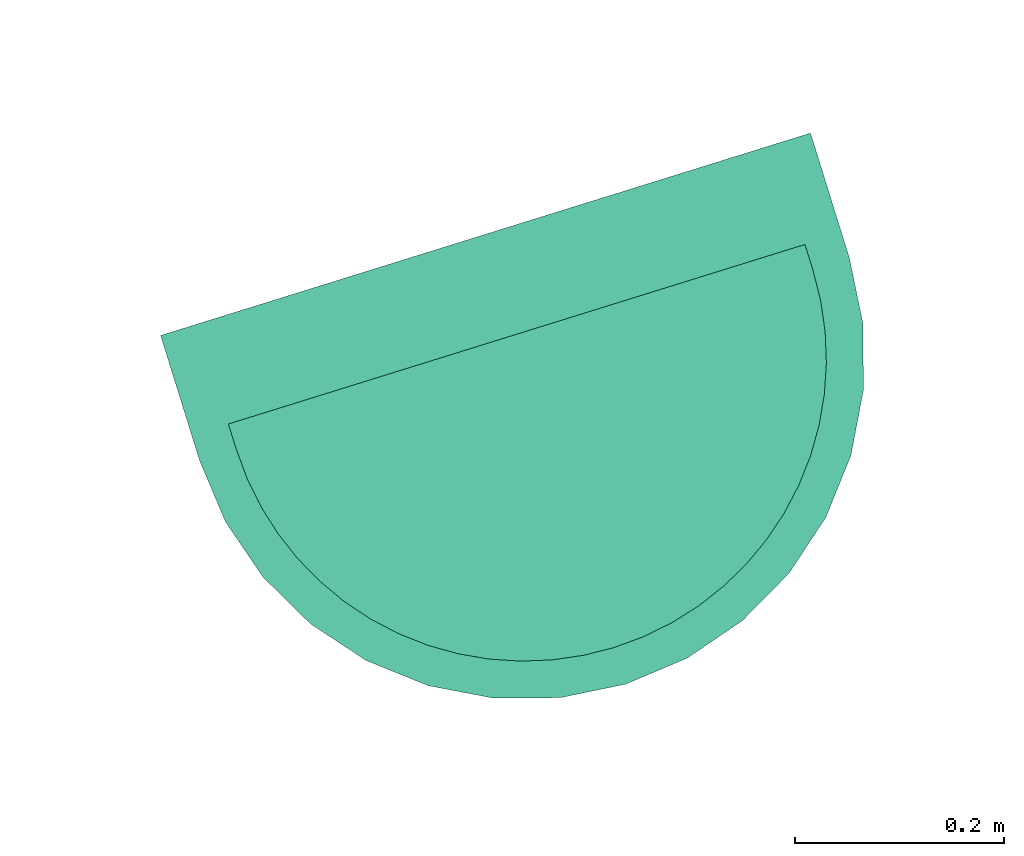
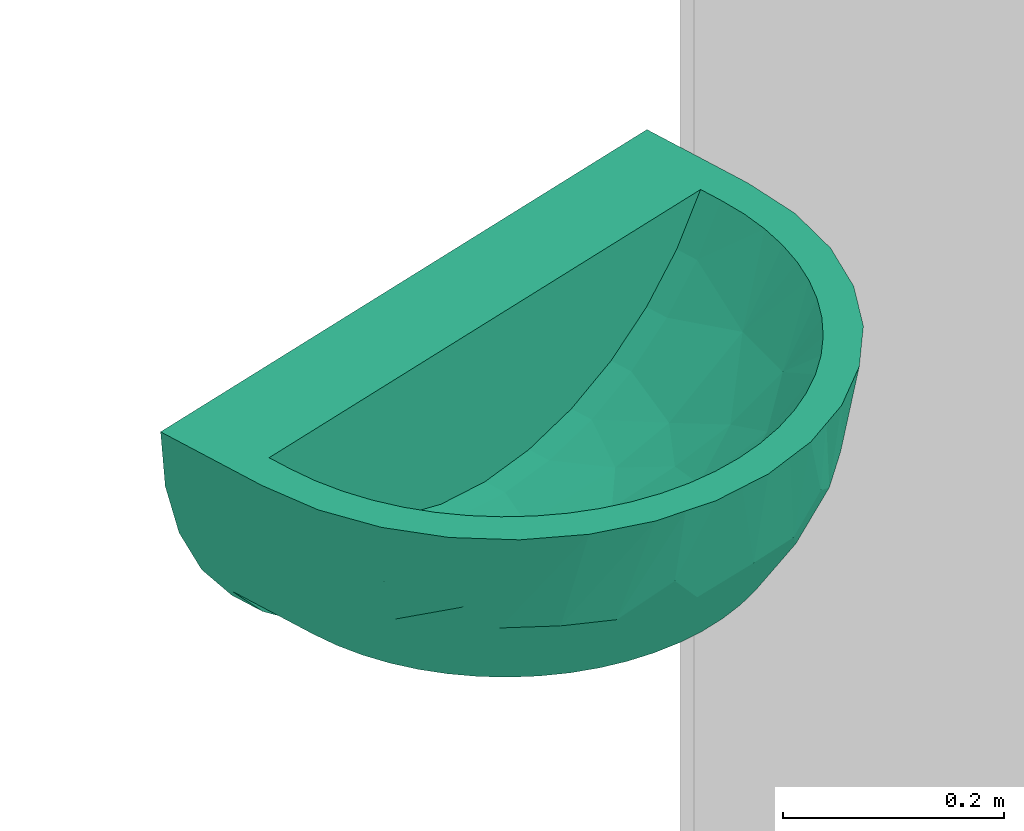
# Not in any storey, part 14 of 20: 1 sanitary terminal.
"""IFC4 model written with IfcOpenShell, lengths in metres."""

import ifcopenshell
import ifcopenshell.guid

model = None  # the IFC model being written
_history = None  # IfcOwnerHistory: only IFC2X3 demands one
_inside = {}  # id of a spatial element -> (the spatial element, [elements in it])
_under = {}  # id of a project, library or spatial element -> (it, [spatial elements below it])
_declared = {}  # id of a project -> (the project, [libraries it declares])
_typed = {}  # id of a type object -> (the type object, [elements of that type])
_made_of = {}  # id of a material, layer set ... -> (it, [elements and type objects made of it])


def new_model(schema):
    """Start an empty IFC model of exactly this schema.

    Asked for "IFC4X3", IfcOpenShell would pick the latest addendum, in which some entities
    have other attributes; the version numbers below select the first issue.
    IFC2X3 requires an IfcOwnerHistory on every rooted entity: one is made here for all.
    """
    global model, _history
    if schema == "IFC4X3":
        model = ifcopenshell.file(schema_version=(4, 3, 0, 0))
    else:
        model = ifcopenshell.file(schema=schema)
    _inside.clear()
    _under.clear()
    _declared.clear()
    _typed.clear()
    _made_of.clear()
    _history = None
    if model.schema == "IFC2X3":
        org = make("IfcOrganization", Name="unknown")
        user = make(
            "IfcPersonAndOrganization",
            ThePerson=make("IfcPerson", FamilyName="unknown"),
            TheOrganization=org,
        )
        app = make(
            "IfcApplication",
            ApplicationDeveloper=org,
            Version="unknown",
            ApplicationFullName="unknown",
            ApplicationIdentifier="unknown",
        )
        _history = make(
            "IfcOwnerHistory",
            OwningUser=user,
            OwningApplication=app,
            ChangeAction="ADDED",
            CreationDate=0,
        )
    return model


def make(cls, **values):
    """One entity of the class cls with the attributes given. An attribute that is None is left unset."""
    return model.create_entity(
        cls, **{name: value for name, value in values.items() if value is not None}
    )


def entity(cls, *values):
    """Any entity or typed value of the class cls, its attributes in the order of the schema. None: left unset."""
    e = model.create_entity(cls)
    for i, value in enumerate(values):
        if value is not None:
            e[i] = value
    return e


def rooted(cls, **values):
    """An entity with a GlobalId (a new one), such as an element, a storey or a relation."""
    return make(cls, GlobalId=ifcopenshell.guid.new(), OwnerHistory=_history, **values)


def si_unit(unit_type, name, prefix=None):
    """IfcSIUnit, for example si_unit("LENGTHUNIT", "METRE", prefix="MILLI")."""
    return make("IfcSIUnit", UnitType=unit_type, Prefix=prefix, Name=name)


def converted_unit(unit_type, name, factor, base, dimensions=None, offset=None):
    """IfcConversionBasedUnit, such as the inch: factor (a typed value) times the base unit."""
    return make(
        "IfcConversionBasedUnit"
        if offset is None
        else "IfcConversionBasedUnitWithOffset",
        ConversionOffset=offset,
        Dimensions=None
        if dimensions is None
        else entity("IfcDimensionalExponents", *dimensions),
        UnitType=unit_type,
        Name=name,
        ConversionFactor=make(
            "IfcMeasureWithUnit", ValueComponent=factor, UnitComponent=base
        ),
    )


def assignment(units):
    """IfcUnitAssignment: the units of a project."""
    return None if units is None else make("IfcUnitAssignment", Units=units)


def point(xyz):
    """IfcCartesianPoint."""
    return None if xyz is None else make("IfcCartesianPoint", Coordinates=xyz)


def direction(xyz):
    """IfcDirection."""
    return None if xyz is None else make("IfcDirection", DirectionRatios=xyz)


def frame(location, z_axis=None, x_axis=None):
    """IfcAxis2Placement3D, a coordinate frame: its origin and axes. An axis left out is left unset."""
    return make(
        "IfcAxis2Placement3D",
        Location=point(location),
        Axis=direction(z_axis),
        RefDirection=direction(x_axis),
    )


def origin():
    """The frame at (0, 0, 0) with its axes left unset."""
    return frame((0.0, 0.0, 0.0))


def place(relative_to, where):
    """IfcLocalPlacement: puts the frame where relative to a parent placement (None: the world)."""
    return make(
        "IfcLocalPlacement", PlacementRelTo=relative_to, RelativePlacement=where
    )


def context(
    kind, dimensions, precision=None, world=None, true_north=None, identifier=None
):
    """IfcGeometricRepresentationContext, for example the 3D "Model" context."""
    return make(
        "IfcGeometricRepresentationContext",
        ContextIdentifier=identifier,
        ContextType=kind,
        CoordinateSpaceDimension=dimensions,
        Precision=precision,
        WorldCoordinateSystem=world,
        TrueNorth=true_north,
    )


def subcontext(parent, identifier, kind, view, scale=None):
    """IfcGeometricRepresentationSubContext, for example "Body" below "Model"."""
    return make(
        "IfcGeometricRepresentationSubContext",
        ContextIdentifier=identifier,
        ContextType=kind,
        ParentContext=parent,
        TargetScale=scale,
        TargetView=view,
    )


def project(units=None, contexts=None):
    """IfcProject with its units and contexts."""
    return rooted(
        "IfcProject",
        Name="project",
        RepresentationContexts=contexts,
        UnitsInContext=assignment(units),
    )


def point_list(points):
    """IfcCartesianPointList2D or 3D."""
    cls = (
        "IfcCartesianPointList2D" if len(points[0]) == 2 else "IfcCartesianPointList3D"
    )
    return make(cls, CoordList=points)


def polygons(points, faces, closed=None, point_numbers=None):
    """IfcPolygonalFaceSet: a face is its outer loop, then its inner loops; points numbered from 1."""
    made = []
    for loops in faces:
        if len(loops) == 1:
            made.append(make("IfcIndexedPolygonalFace", CoordIndex=loops[0]))
        else:
            made.append(
                make(
                    "IfcIndexedPolygonalFaceWithVoids",
                    CoordIndex=loops[0],
                    InnerCoordIndices=loops[1:],
                )
            )
    return make(
        "IfcPolygonalFaceSet",
        Coordinates=point_list(points),
        Closed=closed,
        Faces=made,
        PnIndex=point_numbers,
    )


def shape(context_of_items, identifier, shape_type, items):
    """IfcShapeRepresentation: the items that make up one representation, for example the "Body"."""
    return make(
        "IfcShapeRepresentation",
        ContextOfItems=context_of_items,
        RepresentationIdentifier=identifier,
        RepresentationType=shape_type,
        Items=items,
    )


def source(mapping_origin, context_of_items, identifier, shape_type, items):
    """IfcRepresentationMap: a shape defined once, which mapped items show again and again."""
    return make(
        "IfcRepresentationMap",
        MappingOrigin=mapping_origin,
        MappedRepresentation=shape(context_of_items, identifier, shape_type, items),
    )


def transform(
    local_origin,
    x_axis=None,
    y_axis=None,
    z_axis=None,
    scale=None,
    scale2=None,
    scale3=None,
    uniform=True,
):
    """IfcCartesianTransformationOperator3D, or its non-uniform kind. x_axis, y_axis, z_axis: its Axis1, 2, 3."""
    if uniform:
        return make(
            "IfcCartesianTransformationOperator3D",
            Axis1=direction(x_axis),
            Axis2=direction(y_axis),
            LocalOrigin=point(local_origin),
            Scale=scale,
            Axis3=direction(z_axis),
        )
    return make(
        "IfcCartesianTransformationOperator3DnonUniform",
        Axis1=direction(x_axis),
        Axis2=direction(y_axis),
        LocalOrigin=point(local_origin),
        Scale=scale,
        Axis3=direction(z_axis),
        Scale2=scale2,
        Scale3=scale3,
    )


def mapped(mapping_source, mapping_target):
    """IfcMappedItem: shows the shape of a source again, moved by a transform."""
    return make(
        "IfcMappedItem", MappingSource=mapping_source, MappingTarget=mapping_target
    )


def material(Name=None, Category=None):
    """IfcMaterial."""
    return make("IfcMaterial", Name=Name, Category=Category)


def made_of(thing, what):
    """Note that an element or type object is made of a material, layer set ...; save() writes the relation."""
    if what is not None:
        _made_of.setdefault(what.id(), (what, []))[1].append(thing)
    return thing


def type_object(cls, material=None, **own):
    """A type object (cls), such as IfcWallType, which elements share."""
    return made_of(rooted(cls, **own), material)


def element(
    cls,
    number,
    at=None,
    inside=None,
    cuts=None,
    type_object=None,
    material=None,
    context=None,
    identifier="Body",
    shape_type=None,
    held_by="IfcProductDefinitionShape",
    body=None,
    shapes=None,
    **own,
):
    """One element of the class cls, such as IfcWall. Its Tag is "e" and its number.

    at: its placement. inside: the storey or other place that contains it. cuts: it is an
    opening in that element (IfcRelVoidsElement). A single representation is given by context,
    identifier, shape_type and body (its items); several are given by shapes. held_by: the class
    of the entity that holds the representations. save() writes the other relations.
    """
    e = rooted(cls, Tag="e%d" % number, ObjectPlacement=at, **own)
    if body is not None:
        shapes = [shape(context, identifier, shape_type, body)]
    if shapes is not None:
        e.Representation = make(held_by, Representations=shapes)
    if inside is not None:
        _inside.setdefault(inside.id(), (inside, []))[1].append(e)
    if cuts is not None:
        rooted(
            "IfcRelVoidsElement", RelatingBuildingElement=cuts, RelatedOpeningElement=e
        )
    if type_object is not None:
        _typed.setdefault(type_object.id(), (type_object, []))[1].append(e)
    return made_of(e, material)


def aggregate(whole, parts):
    """IfcRelAggregates: a whole, such as a stair, and the parts it consists of."""
    return rooted("IfcRelAggregates", RelatingObject=whole, RelatedObjects=parts)


def save(model, path):
    """Write the relations noted so far, then the file.

    IfcRelAggregates (storeys below a building ...), IfcRelContainedInSpatialStructure (elements
    in a storey), IfcRelDefinesByType, IfcRelAssociatesMaterial and IfcRelDeclares: one each for
    every whole, place, type object, material and project.
    """
    for whole, parts in _under.values():
        aggregate(whole, parts)
    for where, things in _inside.values():
        rooted(
            "IfcRelContainedInSpatialStructure",
            RelatedElements=things,
            RelatingStructure=where,
        )
    for kind, things in _typed.values():
        rooted("IfcRelDefinesByType", RelatedObjects=things, RelatingType=kind)
    for what, things in _made_of.values():
        rooted("IfcRelAssociatesMaterial", RelatedObjects=things, RelatingMaterial=what)
    for by, libraries in _declared.values():
        rooted("IfcRelDeclares", RelatingContext=by, RelatedDefinitions=libraries)
    model.write(path)


model = new_model("IFC4")

# Units and contexts
model_context = context("Model", 3, precision=1e-05, world=origin(), true_north=direction((6.12323399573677e-17, 1.0)))
body_context = subcontext(model_context, "Body", "Model", "MODEL_VIEW")
ifc_project = project(units=[si_unit("LENGTHUNIT", "METRE"), si_unit("AREAUNIT", "SQUARE_METRE"), si_unit("VOLUMEUNIT", "CUBIC_METRE"), converted_unit("PLANEANGLEUNIT", "DEGREE", entity("IfcPlaneAngleMeasure", 0.0174532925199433), si_unit("PLANEANGLEUNIT", "RADIAN"), dimensions=[0, 0, 0, 0, 0, 0, 0])], contexts=[model_context])

# Sanitary terminal
ifc_material = material(Name="<Unnamed>")
sanitary_terminal_type = type_object("IfcSanitaryTerminalType", Name="NLRS_74_PF_WB_wastafel_gen:wastafel", PredefinedType="SINK", material=ifc_material)
shared_shape = source(origin(), body_context, "Body", "Tessellation", [
    polygons([(-0.303081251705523, -0.175000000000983, -3.7), (-0.296836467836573, -0.238404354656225, -3.7), (-0.278342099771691, -0.299372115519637, -3.7), (-0.248308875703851, -0.355560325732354, -3.7), (-0.207890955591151, -0.404809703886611, -3.7), (-0.158641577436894, -0.44522762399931, -3.7), (-0.102453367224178, -0.475260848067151, -3.7), (-0.0414856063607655, -0.493755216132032, -3.7), (0.021918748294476, -0.500000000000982, -3.7), (0.021918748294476, -0.463314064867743, -3.7), (-0.00821701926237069, -0.461734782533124, -3.7), (-0.038024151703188, -0.457013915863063, -3.7), (-0.0671705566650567, -0.449204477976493, -3.7), (-0.0953421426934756, -0.438391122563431, -3.7), (-0.122231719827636, -0.424691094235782, -3.7), (-0.147543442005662, -0.408254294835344, -3.7), (-0.170998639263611, -0.389261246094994, -3.7), (-0.192339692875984, -0.367920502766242, -3.7), (-0.21133265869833, -0.344466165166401, -3.7), (-0.227769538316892, -0.319155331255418, -3.7), (-0.241470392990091, -0.292265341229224, -3.7), (-0.252285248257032, -0.264090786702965, -3.7), (-0.260095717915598, -0.234940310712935, -3.7), (-0.264816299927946, -0.205133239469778, -3.7), (-0.266395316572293, -0.175000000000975, -3.7), (-0.266395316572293, -0.150000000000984, -3.7), (0.021918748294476, -0.150000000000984, -3.7), (0.021918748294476, -0.0499999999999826, -3.7), (-0.303081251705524, -0.0499999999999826, -3.7), (0.346918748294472, -0.175000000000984, -3.7), (0.346918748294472, -0.0499999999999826, -3.7), (0.310232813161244, -0.150000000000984, -3.7), (0.310232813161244, -0.175000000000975, -3.7), (0.308653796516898, -0.205133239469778, -3.7), (0.303933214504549, -0.234940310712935, -3.7), (0.296122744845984, -0.264090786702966, -3.7), (0.285307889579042, -0.292265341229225, -3.7), (0.271607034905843, -0.319155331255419, -3.7), (0.255170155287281, -0.344466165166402, -3.7), (0.236177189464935, -0.367920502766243, -3.7), (0.214836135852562, -0.389261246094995, -3.7), (0.191380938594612, -0.408254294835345, -3.7), (0.166069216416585, -0.424691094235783, -3.7), (0.139179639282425, -0.438391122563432, -3.7), (0.111008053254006, -0.449204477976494, -3.7), (0.0818616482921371, -0.457013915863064, -3.7), (0.0520545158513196, -0.461734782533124, -3.7), (0.0853231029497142, -0.493755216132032, -3.7), (0.146290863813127, -0.475260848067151, -3.7), (0.202479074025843, -0.44522762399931, -3.7), (0.2517284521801, -0.404809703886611, -3.7), (0.292146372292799, -0.355560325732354, -3.7), (0.32217959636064, -0.299372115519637, -3.7), (0.340673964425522, -0.238404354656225, -3.7), (-0.296836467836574, -0.0499999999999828, -3.76340435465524), (-0.278342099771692, -0.049999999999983, -3.82437211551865), (-0.248308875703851, -0.0499999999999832, -3.88056032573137), (-0.207890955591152, -0.0499999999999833, -3.92980970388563), (-0.158641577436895, -0.0499999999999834, -3.97022762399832), (-0.102453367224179, -0.0499999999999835, -4.00026084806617), (-0.0414856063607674, -0.0499999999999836, -4.01875521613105), (0.0219187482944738, -0.0499999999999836, -4.025), (0.085323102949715, -0.0499999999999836, -4.01875521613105), (0.146290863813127, -0.0499999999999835, -4.00026084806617), (0.202479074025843, -0.0499999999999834, -3.97022762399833), (0.2517284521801, -0.0499999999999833, -3.92980970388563), (0.292146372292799, -0.0499999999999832, -3.88056032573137), (0.32217959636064, -0.049999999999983, -3.82437211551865), (0.340673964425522, -0.0499999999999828, -3.76340435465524), (0.34246627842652, -0.175000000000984, -3.75361232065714), (0.329230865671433, -0.175000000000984, -3.8057556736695), (0.307575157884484, -0.175000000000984, -3.85500134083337), (0.278092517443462, -0.175000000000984, -3.9), (0.278092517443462, -0.0749999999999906, -3.9), (0.237763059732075, -0.0749999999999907, -3.94297372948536), (0.190336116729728, -0.0749999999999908, -3.97795789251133), (0.137371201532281, -0.0749999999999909, -4.00380212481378), (0.0806099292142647, -0.074999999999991, -4.01965660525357), (0.0219187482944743, -0.074999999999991, -4.025), (-0.0367724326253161, -0.074999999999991, -4.01965660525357), (-0.0935337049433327, -0.0749999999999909, -4.00380212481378), (-0.146498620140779, -0.0749999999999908, -3.97795789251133), (-0.193925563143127, -0.0749999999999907, -3.94297372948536), (-0.234255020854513, -0.0749999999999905, -3.9), (-0.234255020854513, -0.175000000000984, -3.9), (-0.263737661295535, -0.175000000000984, -3.85500134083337), (-0.285393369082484, -0.175000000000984, -3.8057556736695), (-0.298628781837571, -0.175000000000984, -3.75361232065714), (-0.228099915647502, -0.0499999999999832, -3.9051850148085), (-0.183266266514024, -0.0499999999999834, -3.95001866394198), (-0.130547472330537, -0.0499999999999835, -3.98524423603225), (-0.0719694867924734, -0.0499999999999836, -4.00950803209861), (0.115806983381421, -0.0499999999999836, -4.00950803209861), (0.174384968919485, -0.0499999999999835, -3.98524423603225), (0.227103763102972, -0.0499999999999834, -3.95001866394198), (0.27193741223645, -0.0499999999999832, -3.9051850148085), (0.257927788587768, -0.0749999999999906, -3.92148686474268), (0.214049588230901, -0.0749999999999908, -3.96046581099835), (-0.170212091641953, -0.0749999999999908, -3.96046581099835), (-0.21409029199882, -0.0749999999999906, -3.92148686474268), (-0.120016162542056, -0.0749999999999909, -3.99088000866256), (-0.0651530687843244, -0.0749999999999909, -4.01172936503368), (0.108990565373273, -0.0749999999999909, -4.01172936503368), (0.163853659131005, -0.0749999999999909, -3.99088000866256), (-0.232753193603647, -0.202698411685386, -3.9), (-0.228265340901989, -0.230071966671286, -3.9), (-0.220844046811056, -0.256799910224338, -3.9), (-0.210576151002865, -0.282569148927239, -3.9), (-0.197581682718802, -0.307077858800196, -3.9), (-0.182012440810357, -0.33003893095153, -3.9), (-0.164050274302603, -0.351183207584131, -3.9), (-0.1439051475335, -0.370262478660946, -3.9), (-0.121813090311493, -0.387052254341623, -3.9), (-0.0980340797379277, -0.401354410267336, -3.9), (-0.0728496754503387, -0.412999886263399, -3.9), (-0.0465597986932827, -0.421851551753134, -3.9), (-0.0194777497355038, -0.427806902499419, -3.9), (0.00807674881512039, -0.43079952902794, -3.9), (0.0357845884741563, -0.430798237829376, -3.9), (0.0633306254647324, -0.427804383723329, -3.9), (0.0904016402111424, -0.421850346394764, -3.9), (0.116683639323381, -0.413001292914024, -3.9), (0.141864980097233, -0.401357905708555, -3.9), (0.165644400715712, -0.38705644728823, -3.9), (0.18773840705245, -0.370266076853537, -3.9), (0.207885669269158, -0.351185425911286, -3.9), (0.225849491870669, -0.330039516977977, -3.9), (0.24141970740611, -0.307076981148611, -3.9), (0.254414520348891, -0.282567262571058, -3.9), (0.264682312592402, -0.256797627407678, -3.9), (0.272103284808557, -0.230069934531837, -3.9), (0.27659082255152, -0.202697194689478, -3.9), (-0.257045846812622, -0.297316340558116, -3.81332461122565), (0.300884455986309, -0.297313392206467, -3.81332505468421), (-0.00978342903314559, -0.496877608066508, -3.7), (-0.205655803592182, -0.378737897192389, -3.81102113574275), (0.249493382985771, -0.378737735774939, -3.81102126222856), (0.0536209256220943, -0.496877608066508, -3.7), (0.0219337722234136, -0.481913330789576, -3.80690747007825), (-0.0719694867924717, -0.484508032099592, -3.7), (0.11580698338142, -0.484508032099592, -3.7), (-0.0425022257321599, -0.471258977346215, -3.81707073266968), (-0.165040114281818, -0.416191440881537, -3.81179477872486), (0.20887408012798, -0.416198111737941, -3.81178629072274), (0.0863501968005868, -0.471256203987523, -3.8170719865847), (-0.23446246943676, -0.305265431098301, -3.85140868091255), (0.278301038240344, -0.305263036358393, -3.85140892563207), (-0.120243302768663, -0.443687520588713, -3.81498681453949), (0.164074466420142, -0.443691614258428, -3.81498507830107), (-0.233336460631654, -0.358005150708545, -3.78353976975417), (0.277175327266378, -0.358003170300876, -3.78353992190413), (-0.290060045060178, -0.240925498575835, -3.76283359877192), (0.333897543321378, -0.240925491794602, -3.76283359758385), (-0.275008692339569, -0.237028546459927, -3.81666856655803), (-0.254394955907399, -0.239447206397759, -3.85850014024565), (-0.272362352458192, -0.296908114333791, -3.76451391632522), (0.31884634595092, -0.237026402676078, -3.81666930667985), (0.298232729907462, -0.239444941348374, -3.85850057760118), (0.316201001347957, -0.296905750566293, -3.76451312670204), (-0.0755829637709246, -0.474402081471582, -3.78047862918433), (-0.0690330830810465, -0.449635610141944, -3.84808121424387), (0.119420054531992, -0.474406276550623, -3.7804635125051), (0.112885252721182, -0.449636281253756, -3.84807095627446), (-0.228099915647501, -0.380185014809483, -3.7), (0.27193741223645, -0.380185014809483, -3.7), (-0.183266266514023, -0.425018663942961, -3.7), (0.227103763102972, -0.425018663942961, -3.7), (-0.130547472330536, -0.460244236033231, -3.7), (0.174384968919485, -0.460244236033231, -3.7), (0.278352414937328, -0.175000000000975, -3.74966665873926), (0.238015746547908, -0.175000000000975, -3.79274902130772), (0.190552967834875, -0.175000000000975, -3.82782638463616), (0.137529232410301, -0.175000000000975, -3.85374202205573), (0.0806930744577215, -0.175000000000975, -3.86964132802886), (0.0219187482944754, -0.175000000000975, -3.875), (-0.0368555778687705, -0.175000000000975, -3.86964132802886), (-0.0936917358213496, -0.175000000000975, -3.85374202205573), (-0.146715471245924, -0.175000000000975, -3.82782638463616), (-0.194178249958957, -0.175000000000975, -3.79274902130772), (-0.234514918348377, -0.175000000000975, -3.74966665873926), (-0.119627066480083, -0.322173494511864, -3.80284332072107), (0.163464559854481, -0.32217349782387, -3.8028433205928), (-0.200517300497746, -0.262511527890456, -3.77020203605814), (0.244354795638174, -0.262511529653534, -3.77020203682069), (-0.162633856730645, -0.347041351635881, -3.75485875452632), (0.206471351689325, -0.347041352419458, -3.75485875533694), (0.00220012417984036, -0.367185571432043, -3.81134437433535), (-0.0912046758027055, -0.393814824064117, -3.76200981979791), (0.135042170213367, -0.393814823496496, -3.76200982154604), (0.0498196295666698, -0.280825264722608, -3.85601887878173), (-0.0620730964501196, -0.266760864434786, -3.85025041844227), (0.160889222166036, -0.248929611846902, -3.83433540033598), (0.0405814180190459, -0.417340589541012, -3.76574926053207), (0.0863370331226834, -0.354389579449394, -3.81323879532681), (-0.00909478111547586, -0.420066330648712, -3.76120050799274), (-0.0478694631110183, -0.381606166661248, -3.79097405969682), (-0.0422183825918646, -0.327597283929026, -3.82968821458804), (-0.0074080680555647, -0.286981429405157, -3.8536858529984), (-0.00719351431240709, -0.22811728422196, -3.869305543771), (-0.0504034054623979, -0.422275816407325, -3.7481140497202), (0.115439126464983, -0.298042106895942, -3.83590134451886), (0.101584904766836, -0.237319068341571, -3.85886022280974), (-0.144773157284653, -0.251326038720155, -3.81835264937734), (0.0860600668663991, -0.418745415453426, -3.75518056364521), (0.278341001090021, -0.150000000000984, -3.74968131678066), (0.238003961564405, -0.150000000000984, -3.79275951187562), (0.19054233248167, -0.150000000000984, -3.82783283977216), (0.137520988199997, -0.150000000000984, -3.85374515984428), (0.080687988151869, -0.150000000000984, -3.86964226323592), (0.021917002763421, -0.150000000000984, -3.87499999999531), (-0.0368543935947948, -0.150000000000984, -3.869641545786), (-0.0936885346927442, -0.150000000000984, -3.85374324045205), (-0.146711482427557, -0.150000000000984, -3.8278288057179), (-0.19417475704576, -0.150000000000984, -3.79275213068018), (-0.234512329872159, -0.150000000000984, -3.74966998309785)], [[[9, 138, 48, 141, 49, 169, 50, 167, 51, 165, 52, 53, 54, 30, 31, 28, 29, 1, 2, 3, 4, 164, 5, 166, 6, 168, 7, 140, 8, 135], [10, 11, 12, 13, 14, 15, 16, 17, 18, 19, 20, 21, 22, 23, 24, 25, 26, 27, 32, 33, 34, 35, 36, 37, 38, 39, 40, 41, 42, 43, 44, 45, 46, 47]], [[1, 29, 88]], [[87, 88, 55]], [[56, 86, 87]], [[58, 100, 89]], [[93, 103, 63]], [[91, 60, 101]], [[97, 75, 66]], [[61, 102, 92]], [[61, 62, 80]], [[84, 85, 86]], [[94, 65, 76]], [[89, 84, 57]], [[86, 56, 57]], [[88, 29, 55]], [[55, 56, 87]], [[86, 57, 84]], [[82, 59, 91]], [[92, 81, 60]], [[58, 90, 83]], [[59, 82, 99]], [[93, 64, 77]], [[59, 99, 90]], [[84, 89, 100]], [[100, 58, 83]], [[81, 101, 60]], [[62, 79, 80]], [[103, 93, 77]], [[98, 76, 65]], [[98, 95, 75]], [[95, 66, 75]], [[101, 82, 91]], [[104, 94, 76]], [[69, 70, 71]], [[72, 73, 74]], [[71, 72, 68]], [[80, 102, 61]], [[78, 79, 62]], [[30, 70, 31]], [[83, 90, 99]], [[78, 63, 103]], [[104, 77, 64]], [[65, 95, 98]], [[102, 81, 92]], [[62, 63, 78]], [[96, 67, 74]], [[97, 66, 96]], [[67, 72, 74]], [[72, 67, 68]], [[68, 69, 71]], [[69, 31, 70]], [[97, 96, 74]], [[94, 104, 64]], [[28, 31, 69, 68, 67, 96, 66, 95, 65, 94, 64, 93, 63, 62, 61, 92, 60, 91, 59, 90, 58, 89, 57, 56, 55, 29]], [[6, 136, 143]], [[52, 159, 53]], [[158, 157, 134]], [[111, 112, 143]], [[136, 150, 146]], [[143, 110, 111]], [[129, 147, 128]], [[110, 143, 136]], [[148, 143, 112]], [[159, 157, 153]], [[161, 115, 116]], [[139, 135, 142]], [[53, 159, 153]], [[142, 117, 118]], [[143, 148, 7]], [[8, 160, 142]], [[134, 151, 147]], [[148, 161, 160]], [[114, 148, 113]], [[7, 148, 140]], [[8, 140, 160]], [[130, 131, 158]], [[136, 146, 109]], [[152, 3, 2]], [[160, 140, 148]], [[87, 152, 88]], [[154, 133, 156]], [[1, 88, 2]], [[2, 88, 152]], [[165, 51, 151]], [[147, 151, 137]], [[4, 3, 156]], [[142, 161, 116]], [[139, 142, 118]], [[107, 155, 106]], [[146, 107, 108]], [[124, 125, 149]], [[166, 5, 150]], [[155, 86, 85]], [[118, 119, 139]], [[86, 154, 87]], [[154, 86, 155]], [[148, 114, 161]], [[139, 145, 138]], [[107, 146, 155]], [[136, 109, 110]], [[150, 164, 133]], [[85, 105, 155]], [[142, 160, 161]], [[48, 138, 145]], [[158, 73, 72]], [[146, 108, 109]], [[9, 135, 139]], [[9, 139, 138]], [[119, 145, 139]], [[8, 142, 135]], [[120, 121, 145]], [[124, 149, 123]], [[49, 141, 149]], [[137, 50, 144]], [[156, 152, 154]], [[133, 155, 146]], [[137, 144, 127]], [[112, 113, 148]], [[162, 145, 163]], [[134, 165, 151]], [[149, 125, 144]], [[127, 128, 137]], [[120, 145, 119]], [[155, 133, 154]], [[48, 145, 162]], [[152, 156, 3]], [[133, 146, 150]], [[168, 6, 143, 7]], [[144, 125, 126]], [[144, 126, 127]], [[163, 145, 121]], [[151, 167, 137]], [[147, 137, 128]], [[142, 116, 117]], [[157, 158, 72]], [[158, 147, 130]], [[141, 48, 162]], [[158, 134, 147]], [[147, 129, 130]], [[72, 71, 157]], [[158, 132, 73]], [[87, 154, 152]], [[70, 54, 153]], [[163, 122, 123]], [[167, 50, 137]], [[133, 164, 156]], [[54, 70, 30]], [[71, 70, 153]], [[136, 166, 150]], [[159, 134, 157]], [[158, 131, 132]], [[53, 153, 54]], [[169, 49, 144, 50]], [[105, 106, 155]], [[150, 5, 164]], [[165, 134, 159]], [[71, 153, 157]], [[114, 115, 161]], [[162, 149, 141]], [[163, 123, 149]], [[162, 163, 149]], [[122, 163, 121]], [[4, 156, 164]], [[159, 52, 165]], [[166, 136, 6]], [[167, 151, 51]], [[149, 144, 49]], [[185, 16, 15]], [[198, 187, 190]], [[185, 18, 17]], [[190, 202, 199]], [[187, 198, 197]], [[20, 185, 183]], [[15, 14, 188]], [[181, 197, 191]], [[193, 195, 10]], [[204, 194, 193]], [[177, 203, 191]], [[196, 187, 197]], [[196, 200, 195]], [[10, 195, 11]], [[185, 15, 188]], [[187, 196, 195]], [[200, 196, 188]], [[191, 197, 198]], [[22, 183, 23]], [[13, 200, 188]], [[180, 24, 23]], [[190, 194, 201]], [[202, 201, 192]], [[25, 24, 180]], [[183, 22, 21]], [[200, 12, 11]], [[179, 183, 203]], [[178, 203, 177]], [[201, 202, 190]], [[180, 183, 179]], [[23, 183, 180]], [[19, 18, 185]], [[20, 183, 21]], [[172, 184, 171]], [[13, 188, 14]], [[185, 20, 19]], [[190, 199, 198]], [[16, 185, 17]], [[181, 188, 196]], [[191, 199, 176]], [[193, 187, 195]], [[194, 189, 182]], [[189, 43, 186]], [[184, 192, 182]], [[173, 174, 202]], [[45, 44, 189]], [[204, 47, 46]], [[186, 43, 42]], [[186, 41, 40]], [[181, 196, 197]], [[38, 184, 186]], [[187, 193, 194]], [[45, 189, 204]], [[39, 38, 186]], [[182, 201, 194]], [[186, 42, 41]], [[199, 175, 176]], [[184, 38, 37]], [[189, 44, 43]], [[177, 191, 176]], [[192, 184, 172]], [[172, 173, 192]], [[186, 184, 182]], [[203, 183, 181]], [[191, 198, 199]], [[185, 188, 181]], [[184, 170, 171]], [[11, 195, 200]], [[12, 200, 13]], [[184, 35, 170]], [[170, 34, 33]], [[34, 170, 35]], [[193, 10, 47]], [[186, 40, 39]], [[175, 199, 202]], [[36, 35, 184]], [[36, 184, 37]], [[183, 185, 181]], [[201, 182, 192]], [[204, 46, 45]], [[187, 194, 190]], [[189, 186, 182]], [[173, 202, 192]], [[202, 174, 175]], [[191, 203, 181]], [[179, 203, 178]], [[194, 204, 189]], [[47, 204, 193]], [[180, 26, 25]], [[179, 215, 180]], [[213, 178, 177]], [[179, 178, 214]], [[212, 177, 176]], [[215, 26, 180]], [[214, 215, 179]], [[210, 211, 176]], [[212, 213, 177]], [[211, 212, 176]], [[214, 178, 213]], [[176, 175, 210]], [[209, 175, 174]], [[173, 208, 174]], [[206, 172, 171]], [[173, 172, 207]], [[205, 171, 170]], [[209, 174, 208]], [[208, 173, 207]], [[171, 205, 206]], [[206, 207, 172]], [[205, 170, 32]], [[33, 32, 170]], [[175, 209, 210]], [[32, 27, 26, 215, 214, 213, 212, 211, 210, 209, 208, 207, 206, 205]], [[82, 101, 81, 102, 80, 79, 78, 103, 77, 104, 76, 98, 75, 97, 74, 84, 100, 83, 99]], [[73, 132, 131, 130, 129, 128, 127, 126, 125, 124, 123, 122, 121, 120, 119, 118, 117, 116, 115, 114, 113, 112, 111, 110, 109, 108, 107, 106, 105, 85, 84, 74]]], closed=True),
])
placement_1 = place(None, frame((13.1347999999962, 11.9886000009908, 0.0), z_axis=(0.0, 0.0, 1.0), x_axis=(0.954770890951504, 0.297342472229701, 0.0)))
placement_2 = place(placement_1, origin())
placement_3 = place(placement_2, frame((0.0, 0.0, 3.9)))
placement_4 = place(placement_3, origin())
sanitary_terminal_placement = place(placement_4, frame((7.47808125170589, 28.6749999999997, 4.525)))
element("IfcSanitaryTerminal", 1, at=sanitary_terminal_placement, type_object=sanitary_terminal_type, material=ifc_material, Name="NLRS_74_PF_WB_wastafel_gen:wastafel", ObjectType="NLRS_74_PF_WB_wastafel_gen:wastafel", PredefinedType="SINK", context=body_context, shape_type="MappedRepresentation", body=[
    mapped(shared_shape, transform((0.0, 0.0, 0.0), scale=1.0)),
])

save(model, "model.ifc")
